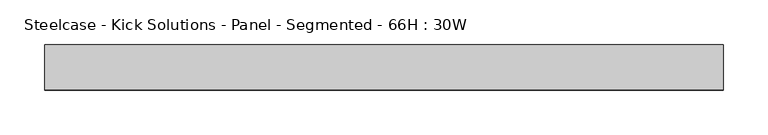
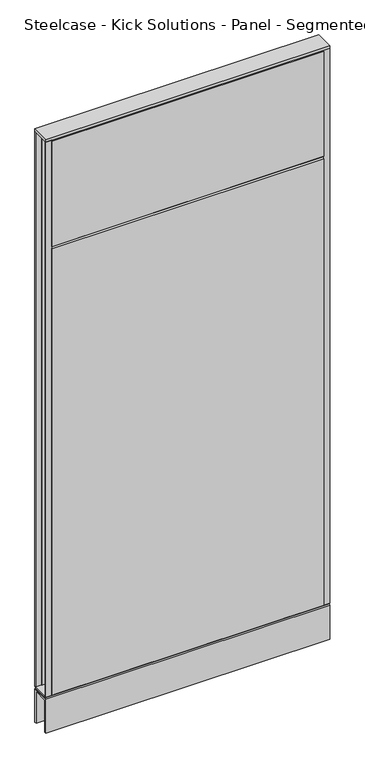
"""IFC4 building model written with IfcOpenShell, lengths in millimetres: furniture geometry, Steelcase - Kick Solutions - Panel - Segmented - 66H : 30W."""

from ifc_helpers import new_model, si_unit, frame, origin, place, context, project, spatial, polyline, outline, extrude, source, transform, mapped, element, save


def steelcase_kick_solutions_panel_segmented_66h_30w_7bff5ef4(model_context):
    return source(origin(), model_context, "Body", "SweptSolid", [
        extrude(outline(polyline([(1.5e-06, 101.600003), (-3.175, 101.600003), (-3.175, 1676.4), (1.5e-06, 1673.3188448), (1.5e-06, 101.600003)])), frame((15.8749996, 0.0, 0.0), z_axis=(1.0, 0.0, 0.0), x_axis=(0.0, 1.0, 0.0)), (0.0, 0.0, 1.0), 730.2500008),
        extrude(outline(polyline([(-50.8000015, 1374.6811552), (-50.8000015, 1673.3188448), (-47.625, 1676.4), (-47.625, 1371.6), (-50.8000015, 1374.6811552)])), frame((15.8749996, 0.0, 0.0), z_axis=(1.0, 0.0, 0.0), x_axis=(0.0, 1.0, 0.0)), (0.0, 0.0, 1.0), 730.2500008),
        extrude(outline(polyline([(-50.8000015, 101.600003), (-50.8000015, 1368.5188448), (-47.625, 1371.6), (-47.625, 101.600003), (-50.8000015, 101.600003)])), frame((15.8749996, 0.0, 0.0), z_axis=(1.0, 0.0, 0.0), x_axis=(0.0, 1.0, 0.0)), (0.0, 0.0, 1.0), 730.2500008),
        extrude(outline(polyline([(762.0, -3.1750015), (746.1250004, -3.1750015), (746.1250004, 0.0), (762.0, 0.0), (762.0, -3.1750015)])), frame((0.0, 0.0, 101.7169049), z_axis=(0.0, 0.0, 1.0), x_axis=(1.0, 0.0, 0.0)), (0.0, 0.0, 1.0), 1574.799997),
        extrude(outline(polyline([(15.8749996, -50.8000015), (0.0, -50.8000015), (0.0, -47.625), (15.8749996, -47.625), (15.8749996, -50.8000015)])), frame((0.0, 0.0, 101.7169049), z_axis=(0.0, 0.0, 1.0), x_axis=(1.0, 0.0, 0.0)), (0.0, 0.0, 1.0), 1574.799997),
        extrude(outline(polyline([(-50.7995075, 101.7169049), (-0.000494, 101.7169049), (-3.0583512, 98.5421458), (-47.7416503, 98.5421458), (-50.7995075, 101.7169049)])), frame((0.0, 0.0, 0.0), z_axis=(1.0, 0.0, 0.0), x_axis=(0.0, 1.0, 0.0)), (0.0, 0.0, 1.0), 762.0),
        extrude(outline(polyline([(762.0, 0.0), (762.0, -50.8000015), (0.0, -50.8000015), (0.0, 0.0), (762.0, 0.0)])), frame((0.0, 0.0, 1676.5169018), z_axis=(0.0, 0.0, 1.0), x_axis=(1.0, 0.0, 0.0)), (0.0, 0.0, 1.0), 6.35),
        extrude(outline(polyline([(15.8749996, -3.1750015), (0.0, -3.1750015), (0.0, 0.0), (15.8749996, 0.0), (15.8749996, -3.1750015)])), frame((0.0, 0.0, 101.7169049), z_axis=(0.0, 0.0, 1.0), x_axis=(1.0, 0.0, 0.0)), (0.0, 0.0, 1.0), 1574.799997),
        extrude(outline(polyline([(762.0, -50.8000015), (746.1250004, -50.8000015), (746.1250004, -47.625), (762.0, -47.625), (762.0, -50.8000015)])), frame((0.0, 0.0, 101.7169049), z_axis=(0.0, 0.0, 1.0), x_axis=(1.0, 0.0, 0.0)), (0.0, 0.0, 1.0), 1574.799997),
        extrude(outline(polyline([(-50.8000015, 95.3668927), (-47.6247484, 98.5421458), (-3.1752531, 98.5421458), (0.0, 95.3668927), (-50.8000015, 95.3668927)])), frame((0.0, 0.0, 0.0), z_axis=(1.0, 0.0, 0.0), x_axis=(0.0, 1.0, 0.0)), (0.0, 0.0, 1.0), 762.0),
        extrude(outline(polyline([(0.0, 0.0), (-5.08, 0.0), (-5.08, 90.2869018), (-45.7200015, 90.2869018), (-45.7200015, 0.0), (-50.8000015, 0.0), (-50.8000015, 95.3669018), (0.0, 95.3669018), (0.0, 0.0)])), frame((0.0, 0.0, 0.0), z_axis=(1.0, 0.0, 0.0), x_axis=(0.0, 1.0, 0.0)), (0.0, 0.0, 1.0), 762.0),
    ])


if __name__ == "__main__":
    model = new_model("IFC4")
    model_context = context("Model", 3, world=origin())
    ifc_project = project(units=[si_unit("LENGTHUNIT", "METRE", prefix="MILLI")], contexts=[model_context])
    site = spatial("IfcSite", under=ifc_project)
    building = spatial("IfcBuilding", under=site)
    placement = place(None, origin())
    steelcase_kick_solutions_panel_segmented_66h_30w_shape = steelcase_kick_solutions_panel_segmented_66h_30w_7bff5ef4(model_context)
    element("IfcFurniture", 1, ObjectType="Steelcase - Kick Solutions - Panel - Segmented - 66H : 30W", at=placement, inside=building, context=model_context, shape_type="MappedRepresentation", body=[
        mapped(steelcase_kick_solutions_panel_segmented_66h_30w_shape, transform((0.0, 0.0, 0.0), x_axis=(1.0, 0.0, 0.0), y_axis=(0.0, 1.0, 0.0), z_axis=(0.0, 0.0, 1.0))),
    ])
    save(model, "model.ifc")
